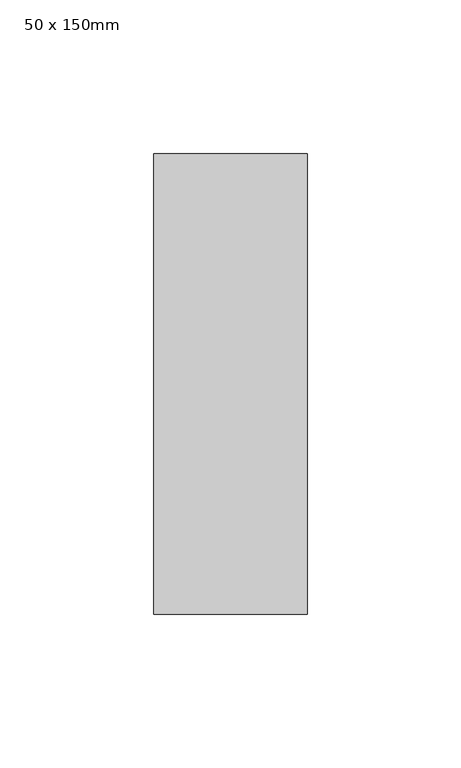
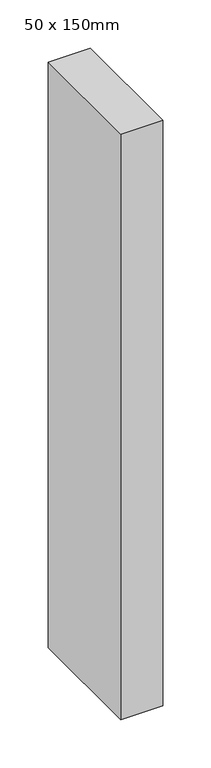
"""IFC4 building model written with IfcOpenShell, lengths in millimetres: member geometry, 矩形豎框 : 50 x 150mm."""

import ifcopenshell
import ifcopenshell.guid

model = None  # the IFC model being written
_history = None  # IfcOwnerHistory: only IFC2X3 demands one
_inside = {}  # id of a spatial element -> (the spatial element, [elements in it])
_under = {}  # id of a project, library or spatial element -> (it, [spatial elements below it])
_declared = {}  # id of a project -> (the project, [libraries it declares])
_typed = {}  # id of a type object -> (the type object, [elements of that type])
_made_of = {}  # id of a material, layer set ... -> (it, [elements and type objects made of it])


def new_model(schema):
    """Start an empty IFC model of exactly this schema.

    Asked for "IFC4X3", IfcOpenShell would pick the latest addendum, in which some entities
    have other attributes; the version numbers below select the first issue.
    IFC2X3 requires an IfcOwnerHistory on every rooted entity: one is made here for all.
    """
    global model, _history
    if schema == "IFC4X3":
        model = ifcopenshell.file(schema_version=(4, 3, 0, 0))
    else:
        model = ifcopenshell.file(schema=schema)
    _inside.clear()
    _under.clear()
    _declared.clear()
    _typed.clear()
    _made_of.clear()
    _history = None
    if model.schema == "IFC2X3":
        org = make("IfcOrganization", Name="unknown")
        user = make(
            "IfcPersonAndOrganization",
            ThePerson=make("IfcPerson", FamilyName="unknown"),
            TheOrganization=org,
        )
        app = make(
            "IfcApplication",
            ApplicationDeveloper=org,
            Version="unknown",
            ApplicationFullName="unknown",
            ApplicationIdentifier="unknown",
        )
        _history = make(
            "IfcOwnerHistory",
            OwningUser=user,
            OwningApplication=app,
            ChangeAction="ADDED",
            CreationDate=0,
        )
    return model


def make(cls, **values):
    """One entity of the class cls with the attributes given. An attribute that is None is left unset."""
    return model.create_entity(
        cls, **{name: value for name, value in values.items() if value is not None}
    )


def rooted(cls, **values):
    """An entity with a GlobalId (a new one), such as an element, a storey or a relation."""
    return make(cls, GlobalId=ifcopenshell.guid.new(), OwnerHistory=_history, **values)


def si_unit(unit_type, name, prefix=None):
    """IfcSIUnit, for example si_unit("LENGTHUNIT", "METRE", prefix="MILLI")."""
    return make("IfcSIUnit", UnitType=unit_type, Prefix=prefix, Name=name)


def assignment(units):
    """IfcUnitAssignment: the units of a project."""
    return None if units is None else make("IfcUnitAssignment", Units=units)


def point(xyz):
    """IfcCartesianPoint."""
    return None if xyz is None else make("IfcCartesianPoint", Coordinates=xyz)


def direction(xyz):
    """IfcDirection."""
    return None if xyz is None else make("IfcDirection", DirectionRatios=xyz)


def frame(location, z_axis=None, x_axis=None):
    """IfcAxis2Placement3D, a coordinate frame: its origin and axes. An axis left out is left unset."""
    return make(
        "IfcAxis2Placement3D",
        Location=point(location),
        Axis=direction(z_axis),
        RefDirection=direction(x_axis),
    )


def origin():
    """The frame at (0, 0, 0) with its axes left unset."""
    return frame((0.0, 0.0, 0.0))


def place(relative_to, where):
    """IfcLocalPlacement: puts the frame where relative to a parent placement (None: the world)."""
    return make(
        "IfcLocalPlacement", PlacementRelTo=relative_to, RelativePlacement=where
    )


def context(
    kind, dimensions, precision=None, world=None, true_north=None, identifier=None
):
    """IfcGeometricRepresentationContext, for example the 3D "Model" context."""
    return make(
        "IfcGeometricRepresentationContext",
        ContextIdentifier=identifier,
        ContextType=kind,
        CoordinateSpaceDimension=dimensions,
        Precision=precision,
        WorldCoordinateSystem=world,
        TrueNorth=true_north,
    )


def project(units=None, contexts=None):
    """IfcProject with its units and contexts."""
    return rooted(
        "IfcProject",
        Name="project",
        RepresentationContexts=contexts,
        UnitsInContext=assignment(units),
    )


def spatial(cls, under=None, at=None, **own):
    """A site, building, storey or space (cls), placed at a placement, below another one or the project."""
    s = rooted(cls, ObjectPlacement=at, **own)
    if under is not None:
        _under.setdefault(under.id(), (under, []))[1].append(s)
    return s


def polyline(points):
    """IfcPolyline through the points."""
    return make("IfcPolyline", Points=[point(p) for p in points])


def outline(outer, holes=None, kind="AREA"):
    """IfcArbitraryClosedProfileDef: a profile drawn as a closed curve; with holes, ...WithVoids."""
    if holes is None:
        return make("IfcArbitraryClosedProfileDef", ProfileType=kind, OuterCurve=outer)
    return make(
        "IfcArbitraryProfileDefWithVoids",
        ProfileType=kind,
        OuterCurve=outer,
        InnerCurves=holes,
    )


def extrude(swept, where, along, depth):
    """IfcExtrudedAreaSolid: the profile swept, set in the frame where, extruded along a direction by depth."""
    return make(
        "IfcExtrudedAreaSolid",
        SweptArea=swept,
        Position=where,
        ExtrudedDirection=direction(along),
        Depth=depth,
    )


def shape(context_of_items, identifier, shape_type, items):
    """IfcShapeRepresentation: the items that make up one representation, for example the "Body"."""
    return make(
        "IfcShapeRepresentation",
        ContextOfItems=context_of_items,
        RepresentationIdentifier=identifier,
        RepresentationType=shape_type,
        Items=items,
    )


def source(mapping_origin, context_of_items, identifier, shape_type, items):
    """IfcRepresentationMap: a shape defined once, which mapped items show again and again."""
    return make(
        "IfcRepresentationMap",
        MappingOrigin=mapping_origin,
        MappedRepresentation=shape(context_of_items, identifier, shape_type, items),
    )


def transform(
    local_origin,
    x_axis=None,
    y_axis=None,
    z_axis=None,
    scale=None,
    scale2=None,
    scale3=None,
    uniform=True,
):
    """IfcCartesianTransformationOperator3D, or its non-uniform kind. x_axis, y_axis, z_axis: its Axis1, 2, 3."""
    if uniform:
        return make(
            "IfcCartesianTransformationOperator3D",
            Axis1=direction(x_axis),
            Axis2=direction(y_axis),
            LocalOrigin=point(local_origin),
            Scale=scale,
            Axis3=direction(z_axis),
        )
    return make(
        "IfcCartesianTransformationOperator3DnonUniform",
        Axis1=direction(x_axis),
        Axis2=direction(y_axis),
        LocalOrigin=point(local_origin),
        Scale=scale,
        Axis3=direction(z_axis),
        Scale2=scale2,
        Scale3=scale3,
    )


def mapped(mapping_source, mapping_target):
    """IfcMappedItem: shows the shape of a source again, moved by a transform."""
    return make(
        "IfcMappedItem", MappingSource=mapping_source, MappingTarget=mapping_target
    )


def made_of(thing, what):
    """Note that an element or type object is made of a material, layer set ...; save() writes the relation."""
    if what is not None:
        _made_of.setdefault(what.id(), (what, []))[1].append(thing)
    return thing


def element(
    cls,
    number,
    at=None,
    inside=None,
    cuts=None,
    type_object=None,
    material=None,
    context=None,
    identifier="Body",
    shape_type=None,
    held_by="IfcProductDefinitionShape",
    body=None,
    shapes=None,
    **own,
):
    """One element of the class cls, such as IfcWall. Its Tag is "e" and its number.

    at: its placement. inside: the storey or other place that contains it. cuts: it is an
    opening in that element (IfcRelVoidsElement). A single representation is given by context,
    identifier, shape_type and body (its items); several are given by shapes. held_by: the class
    of the entity that holds the representations. save() writes the other relations.
    """
    e = rooted(cls, Tag="e%d" % number, ObjectPlacement=at, **own)
    if body is not None:
        shapes = [shape(context, identifier, shape_type, body)]
    if shapes is not None:
        e.Representation = make(held_by, Representations=shapes)
    if inside is not None:
        _inside.setdefault(inside.id(), (inside, []))[1].append(e)
    if cuts is not None:
        rooted(
            "IfcRelVoidsElement", RelatingBuildingElement=cuts, RelatedOpeningElement=e
        )
    if type_object is not None:
        _typed.setdefault(type_object.id(), (type_object, []))[1].append(e)
    return made_of(e, material)


def aggregate(whole, parts):
    """IfcRelAggregates: a whole, such as a stair, and the parts it consists of."""
    return rooted("IfcRelAggregates", RelatingObject=whole, RelatedObjects=parts)


def save(model, path):
    """Write the relations noted so far, then the file.

    IfcRelAggregates (storeys below a building ...), IfcRelContainedInSpatialStructure (elements
    in a storey), IfcRelDefinesByType, IfcRelAssociatesMaterial and IfcRelDeclares: one each for
    every whole, place, type object, material and project.
    """
    for whole, parts in _under.values():
        aggregate(whole, parts)
    for where, things in _inside.values():
        rooted(
            "IfcRelContainedInSpatialStructure",
            RelatedElements=things,
            RelatingStructure=where,
        )
    for kind, things in _typed.values():
        rooted("IfcRelDefinesByType", RelatedObjects=things, RelatingType=kind)
    for what, things in _made_of.values():
        rooted("IfcRelAssociatesMaterial", RelatedObjects=things, RelatingMaterial=what)
    for by, libraries in _declared.values():
        rooted("IfcRelDeclares", RelatingContext=by, RelatedDefinitions=libraries)
    model.write(path)


def member_50_x_150mm_7336e13a(model_context):
    return source(origin(), model_context, "Body", "SweptSolid", [
        extrude(outline(polyline([(0.0, 75.0), (0.0, -75.0), (-50.0, -75.0), (-50.0, 75.0), (0.0, 75.0)])), frame((0.0, 0.0, -739.9999994), z_axis=(0.0, 0.0, 1.0), x_axis=(1.0, 0.0, 0.0)), (0.0, 0.0, 1.0), 739.9999994),
    ])


if __name__ == "__main__":
    model = new_model("IFC4")
    model_context = context("Model", 3, world=origin())
    ifc_project = project(units=[si_unit("LENGTHUNIT", "METRE", prefix="MILLI")], contexts=[model_context])
    site = spatial("IfcSite", under=ifc_project)
    building = spatial("IfcBuilding", under=site)
    placement = place(None, origin())
    member_50_x_150mm_shape = member_50_x_150mm_7336e13a(model_context)
    element("IfcMember", 1, ObjectType="矩形豎框 : 50 x 150mm", at=placement, inside=building, context=model_context, shape_type="MappedRepresentation", body=[
        mapped(member_50_x_150mm_shape, transform((0.0, 0.0, 0.0), x_axis=(1.0, 0.0, 0.0), y_axis=(0.0, 1.0, 0.0), z_axis=(0.0, 0.0, 1.0))),
    ])
    save(model, "model.ifc")
